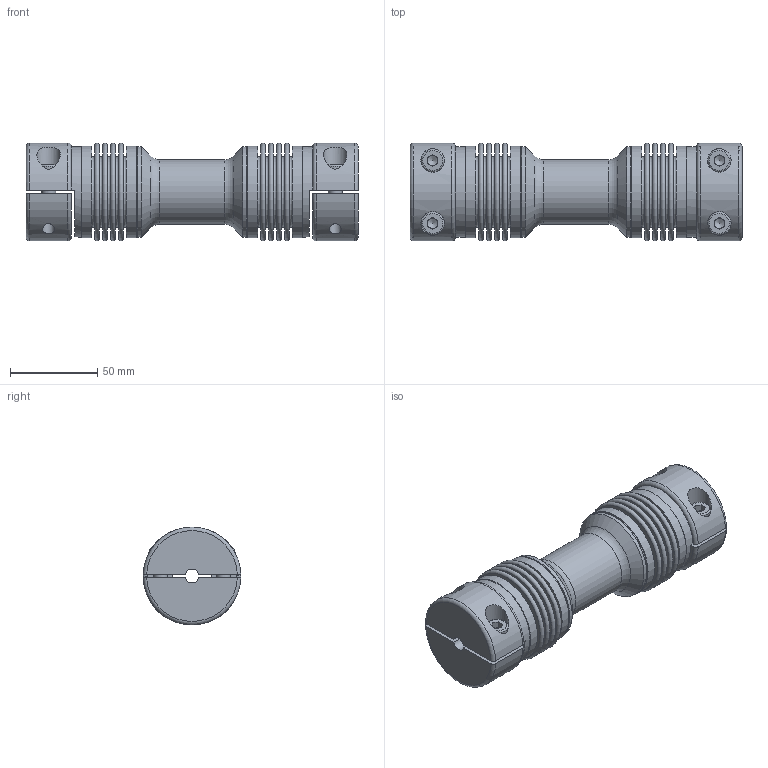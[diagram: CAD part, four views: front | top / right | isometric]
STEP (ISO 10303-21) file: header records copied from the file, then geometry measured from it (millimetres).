
FILE_DESCRIPTION(/* description */ ('Unknown'),/* implementation_level */ '2;1');
FILE_NAME(/* name */ 'WDZ 50',/* time_stamp */ '2020-05-11T11:44:26+03:00',/* author */ ('Unknown'),/* organization */ ('Unknown'),/* preprocessor_version */ 'ST-DEVELOPER v16.7',/* originating_system */ 'DEX',/* authorisation */ $);
FILE_SCHEMA (('AUTOMOTIVE_DESIGN {1 0 10303 214 3 1 1}'));
Length unit declared in the file: millimetre
Products named in the file (1): WDZ 50
Bounding box: 190 x 56 x 56 mm (x, y, z)
Volume: 236485.9 mm3; surface area: 114836 mm2
Topology: 1 solids, 3 shells, 258 faces, 535 edges, 347 vertices
Faces by surface type: plane 134, torus 62, cylinder 50, cone 12
Full cylindrical faces by diameter (mm): 6.8 x4, 8 x4, 8.6 x4, 13 x4, 13.5 x4, 22 x2, 29.65 x2, 30 x1, 31 x4, 37 x1, 37.5 x2, 51.6 x4, 52 x2, 52.6 x4
Entity records: 6180 total; most frequent: CARTESIAN_POINT 1177, DIRECTION 1098, ORIENTED_EDGE 768, AXIS2_PLACEMENT_3D 479, FACE_BOUND 444, EDGE_LOOP 440, EDGE_CURVE 384, VERTEX_POINT 308
